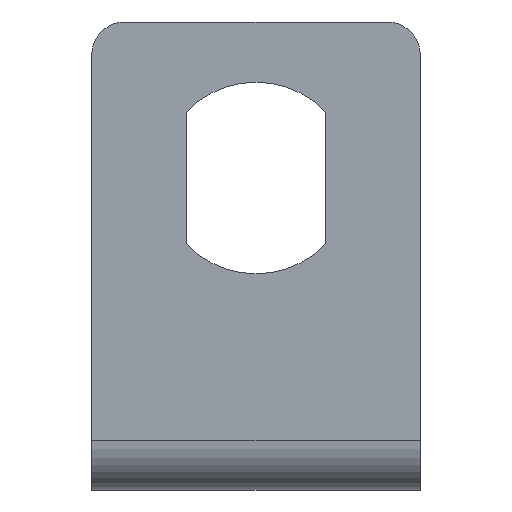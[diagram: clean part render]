
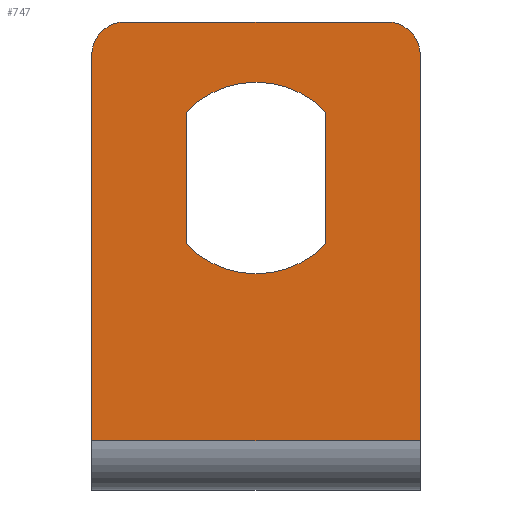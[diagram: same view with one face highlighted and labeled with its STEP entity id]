
A CAD part, front view. The second image highlights one B-rep face of the part: STEP entity #747.
In plain terms, the highlighted planar face has unit normal (0, -1, 0).
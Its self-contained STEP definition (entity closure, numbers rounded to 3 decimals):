
#13 = PLANE ( 'NONE',  #545 ) ;
#18 = DIRECTION ( 'NONE',  ( 0., 1., 0. ) ) ;
#30 = CIRCLE ( 'NONE', #261, 5.836 ) ;
#31 = AXIS2_PLACEMENT_3D ( 'NONE', #44, #486, #367 ) ;
#43 = VERTEX_POINT ( 'NONE', #591 ) ;
#44 = CARTESIAN_POINT ( 'NONE',  ( 10., 0., 19. ) ) ;
#45 = ORIENTED_EDGE ( 'NONE', *, *, #93, .T. ) ;
#46 = LINE ( 'NONE', #453, #628 ) ;
#62 = CARTESIAN_POINT ( 'NONE',  ( 0., 0., 28.5 ) ) ;
#65 = AXIS2_PLACEMENT_3D ( 'NONE', #186, #173, #180 ) ;
#71 = EDGE_CURVE ( 'NONE', #43, #330, #288, .T. ) ;
#73 = VERTEX_POINT ( 'NONE', #408 ) ;
#79 = CARTESIAN_POINT ( 'NONE',  ( 5.75, 0., 15. ) ) ;
#83 = CARTESIAN_POINT ( 'NONE',  ( 14.25, 0., 28.5 ) ) ;
#88 = DIRECTION ( 'NONE',  ( 0., 0., 1. ) ) ;
#93 = EDGE_CURVE ( 'NONE', #277, #330, #740, .T. ) ;
#95 = LINE ( 'NONE', #83, #500 ) ;
#98 = VERTEX_POINT ( 'NONE', #733 ) ;
#119 = ORIENTED_EDGE ( 'NONE', *, *, #71, .F. ) ;
#128 = EDGE_CURVE ( 'NONE', #222, #73, #554, .T. ) ;
#150 = FACE_OUTER_BOUND ( 'NONE', #568, .T. ) ;
#152 = CARTESIAN_POINT ( 'NONE',  ( 10., 0., 19. ) ) ;
#157 = VECTOR ( 'NONE', #613, 1000. ) ;
#173 = DIRECTION ( 'NONE',  ( 0., -1., 0. ) ) ;
#176 = CARTESIAN_POINT ( 'NONE',  ( 5.75, 0., 23. ) ) ;
#180 = DIRECTION ( 'NONE',  ( 0., 0., 1. ) ) ;
#186 = CARTESIAN_POINT ( 'NONE',  ( 2., 0., 26.5 ) ) ;
#187 = EDGE_CURVE ( 'NONE', #578, #277, #635, .T. ) ;
#220 = DIRECTION ( 'NONE',  ( 0., 1., 0. ) ) ;
#222 = VERTEX_POINT ( 'NONE', #176 ) ;
#226 = ORIENTED_EDGE ( 'NONE', *, *, #512, .T. ) ;
#261 = AXIS2_PLACEMENT_3D ( 'NONE', #328, #18, #564 ) ;
#277 = VERTEX_POINT ( 'NONE', #657 ) ;
#288 = LINE ( 'NONE', #301, #658 ) ;
#296 = CARTESIAN_POINT ( 'NONE',  ( 14.25, 0., 15. ) ) ;
#299 = ORIENTED_EDGE ( 'NONE', *, *, #584, .T. ) ;
#301 = CARTESIAN_POINT ( 'NONE',  ( 20., 0., 3. ) ) ;
#309 = AXIS2_PLACEMENT_3D ( 'NONE', #365, #660, #369 ) ;
#317 = CARTESIAN_POINT ( 'NONE',  ( 18., 0., 28.5 ) ) ;
#328 = CARTESIAN_POINT ( 'NONE',  ( 10., 0., 19. ) ) ;
#330 = VERTEX_POINT ( 'NONE', #609 ) ;
#349 = VECTOR ( 'NONE', #736, 1000. ) ;
#365 = CARTESIAN_POINT ( 'NONE',  ( 18., 0., 26.5 ) ) ;
#367 = DIRECTION ( 'NONE',  ( 0., 0., 1. ) ) ;
#369 = DIRECTION ( 'NONE',  ( 0., 0., 1. ) ) ;
#375 = VECTOR ( 'NONE', #499, 1000. ) ;
#385 = CARTESIAN_POINT ( 'NONE',  ( 20., 0., 28.5 ) ) ;
#389 = CARTESIAN_POINT ( 'NONE',  ( 2., 0., 28.5 ) ) ;
#399 = VERTEX_POINT ( 'NONE', #417 ) ;
#406 = ORIENTED_EDGE ( 'NONE', *, *, #608, .T. ) ;
#408 = CARTESIAN_POINT ( 'NONE',  ( 10., 0., 24.836 ) ) ;
#417 = CARTESIAN_POINT ( 'NONE',  ( 20., 0., 26.5 ) ) ;
#422 = EDGE_LOOP ( 'NONE', ( #226, #713, #406, #534, #299 ) ) ;
#439 = VERTEX_POINT ( 'NONE', #296 ) ;
#453 = CARTESIAN_POINT ( 'NONE',  ( 5.75, 0., 28.5 ) ) ;
#455 = ORIENTED_EDGE ( 'NONE', *, *, #462, .T. ) ;
#462 = EDGE_CURVE ( 'NONE', #399, #723, #619, .T. ) ;
#463 = LINE ( 'NONE', #385, #375 ) ;
#482 = ORIENTED_EDGE ( 'NONE', *, *, #792, .F. ) ;
#486 = DIRECTION ( 'NONE',  ( 0., 1., 0. ) ) ;
#494 = ORIENTED_EDGE ( 'NONE', *, *, #187, .T. ) ;
#499 = DIRECTION ( 'NONE',  ( -1., 0., 0. ) ) ;
#500 = VECTOR ( 'NONE', #759, 1000. ) ;
#512 = EDGE_CURVE ( 'NONE', #98, #439, #95, .T. ) ;
#521 = ORIENTED_EDGE ( 'NONE', *, *, #548, .T. ) ;
#525 = DIRECTION ( 'NONE',  ( -1., 0., 0. ) ) ;
#534 = ORIENTED_EDGE ( 'NONE', *, *, #128, .T. ) ;
#545 = AXIS2_PLACEMENT_3D ( 'NONE', #715, #550, #791 ) ;
#548 = EDGE_CURVE ( 'NONE', #723, #578, #463, .T. ) ;
#549 = CARTESIAN_POINT ( 'NONE',  ( 20., 0., 28.5 ) ) ;
#550 = DIRECTION ( 'NONE',  ( 0., 1., 0. ) ) ;
#554 = CIRCLE ( 'NONE', #31, 5.836 ) ;
#555 = AXIS2_PLACEMENT_3D ( 'NONE', #152, #220, #746 ) ;
#560 = VERTEX_POINT ( 'NONE', #79 ) ;
#564 = DIRECTION ( 'NONE',  ( 0., 0., 1. ) ) ;
#568 = EDGE_LOOP ( 'NONE', ( #482, #455, #521, #494, #45, #119 ) ) ;
#575 = CIRCLE ( 'NONE', #555, 5.836 ) ;
#578 = VERTEX_POINT ( 'NONE', #389 ) ;
#584 = EDGE_CURVE ( 'NONE', #73, #98, #30, .T. ) ;
#591 = CARTESIAN_POINT ( 'NONE',  ( 20., 0., 3. ) ) ;
#608 = EDGE_CURVE ( 'NONE', #560, #222, #46, .T. ) ;
#609 = CARTESIAN_POINT ( 'NONE',  ( 0., 0., 3. ) ) ;
#613 = DIRECTION ( 'NONE',  ( 0., 0., -1. ) ) ;
#619 = CIRCLE ( 'NONE', #309, 2. ) ;
#628 = VECTOR ( 'NONE', #88, 1000. ) ;
#635 = CIRCLE ( 'NONE', #65, 2. ) ;
#657 = CARTESIAN_POINT ( 'NONE',  ( 0., 0., 26.5 ) ) ;
#658 = VECTOR ( 'NONE', #525, 1000. ) ;
#660 = DIRECTION ( 'NONE',  ( 0., -1., 0. ) ) ;
#699 = FACE_BOUND ( 'NONE', #422, .T. ) ;
#700 = EDGE_CURVE ( 'NONE', #439, #560, #575, .T. ) ;
#713 = ORIENTED_EDGE ( 'NONE', *, *, #700, .T. ) ;
#715 = CARTESIAN_POINT ( 'NONE',  ( 20., 0., 28.5 ) ) ;
#723 = VERTEX_POINT ( 'NONE', #317 ) ;
#733 = CARTESIAN_POINT ( 'NONE',  ( 14.25, 0., 23. ) ) ;
#736 = DIRECTION ( 'NONE',  ( 0., 0., -1. ) ) ;
#740 = LINE ( 'NONE', #62, #349 ) ;
#746 = DIRECTION ( 'NONE',  ( 0., 0., 1. ) ) ;
#747 = ADVANCED_FACE ( 'NONE', ( #699, #150 ), #13, .F. ) ;
#752 = LINE ( 'NONE', #549, #157 ) ;
#759 = DIRECTION ( 'NONE',  ( 0., 0., -1. ) ) ;
#791 = DIRECTION ( 'NONE',  ( 0., 0., 1. ) ) ;
#792 = EDGE_CURVE ( 'NONE', #399, #43, #752, .T. ) ;
